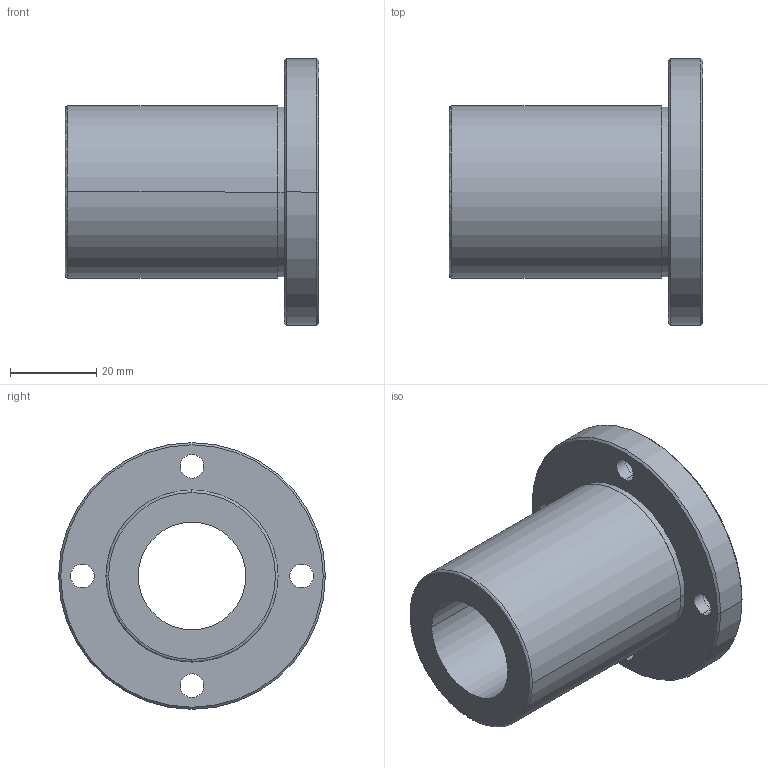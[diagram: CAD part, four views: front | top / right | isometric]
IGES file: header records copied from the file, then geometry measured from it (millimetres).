
Start section: 3D InterOp IGES (Version 21 0 1), Spatial Corp. Copyright (c) 1999-2007.
Global section: file name: NFED-25VUU.igs; native system: Spatial Corp.; preprocessor: 3D InterOp GENERIC/IGES 3.0; author: Noname; organization: Noname; date: 20220308.093850; units: millimetre
Bounding box: 59 x 62 x 62 mm (x, y, z)
Surface area: 18157.1 mm2 (no closed solid volume)
Topology: 0 solids, 0 shells, 38 faces, 174 edges, 174 vertices
Faces by surface type: revolution 30, extrusion 8
